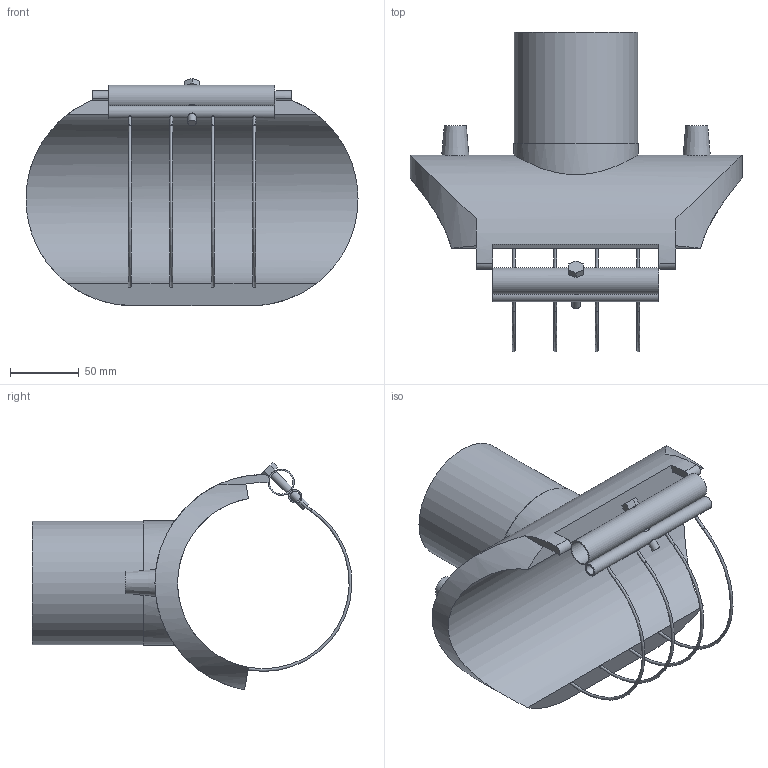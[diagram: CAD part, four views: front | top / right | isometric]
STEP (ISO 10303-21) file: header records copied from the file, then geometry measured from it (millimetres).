
FILE_DESCRIPTION(/* description */ ('Plasson Branch Saddle 125x90'),/* implementation_level */ '2;1');
FILE_NAME(/* name */ 'C:\Dropbox\KIMPROJECTS-Inventor 2019\99-16-3568-Processing\ElectroFusion Fittings\4958X4\4958X4125090T.stp',/* time_stamp */ '2025-05-07T12:15:01+03:00',/* author */ ('KIM'),/* organization */ (''),/* preprocessor_version */ 'ST-DEVELOPER v18.1',/* originating_system */ 'Autodesk Inventor 2021',/* authorisation */ '');
FILE_SCHEMA (('AUTOMOTIVE_DESIGN { 1 0 10303 214 3 1 1 }'));
Length unit declared in the file: millimetre
Products named in the file (1): 4958X4125090T
Bounding box: 242 x 232.96 x 165.73 mm (x, y, z)
Volume: 919019.7 mm3; surface area: 177784.7 mm2
Topology: 1 solids, 1 shells, 63 faces, 178 edges, 115 vertices
Faces by surface type: cylinder 28, plane 25, torus 8, cone 2
Full cylindrical faces by diameter (mm): 6 x3, 7.6 x1, 8 x1, 16 x1, 17.2 x1, 73 x1, 90 x1, 91 x1
Entity records: 2933 total; most frequent: CARTESIAN_POINT 1238, ORIENTED_EDGE 360, DIRECTION 331, EDGE_CURVE 180, AXIS2_PLACEMENT_3D 135, VERTEX_POINT 115, EDGE_LOOP 81, CIRCLE 67
